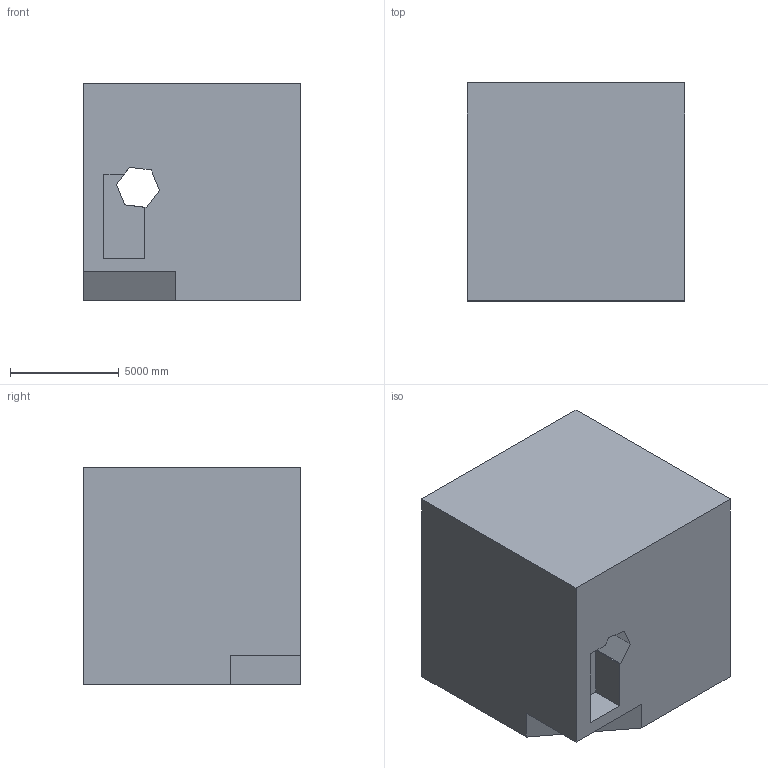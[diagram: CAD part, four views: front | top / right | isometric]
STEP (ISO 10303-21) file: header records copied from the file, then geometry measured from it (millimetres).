
FILE_DESCRIPTION (( 'STEP AP203' ), '1' );
FILE_NAME ('1235.STEP', '2022-08-25T14:47:27', ( 'user' ), ( '' ), 'SwSTEP 2.0', 'SolidWorks 2021', '' );
FILE_SCHEMA (( 'CONFIG_CONTROL_DESIGN' ));
Length unit declared in the file: centimetre
Products named in the file (1): 1235
Bounding box: 10000 x 10000 x 10000 mm (x, y, z)
Volume: 955930841744.5 mm3; surface area: 662199737.1 mm2
Topology: 1 solids, 1 shells, 19 faces, 51 edges, 34 vertices
Faces by surface type: plane 19
Entity records: 666 total; most frequent: CARTESIAN_POINT 105, ORIENTED_EDGE 102, DIRECTION 91, EDGE_CURVE 51, VECTOR 51, LINE 51, VERTEX_POINT 34, EDGE_LOOP 21
